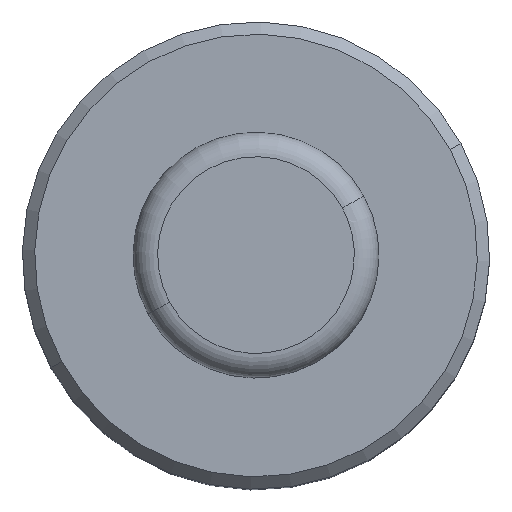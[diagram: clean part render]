
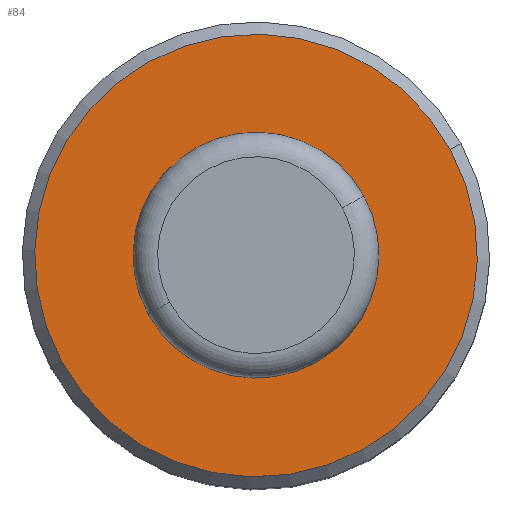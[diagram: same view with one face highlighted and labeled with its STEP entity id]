
A CAD part, top view. The second image highlights one B-rep face of the part: STEP entity #84.
In plain terms, the highlighted planar face has unit normal (0, 0, 1).
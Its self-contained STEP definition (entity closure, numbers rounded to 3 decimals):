
#61=CARTESIAN_POINT('Axis2P3D Location',(0.,0.,48.)) ;
#66=CARTESIAN_POINT('Axis2P3D Location',(0.,0.,48.)) ;
#70=CARTESIAN_POINT('Vertex',(15.796,8.63,48.)) ;
#72=CARTESIAN_POINT('Vertex',(-15.796,-8.63,48.)) ;
#75=CARTESIAN_POINT('Axis2P3D Location',(0.,0.,48.)) ;
#62=DIRECTION('Axis2P3D Direction',(0.,0.,1.)) ;
#63=DIRECTION('Axis2P3D XDirection',(1.,0.,0.)) ;
#67=DIRECTION('Axis2P3D Direction',(0.,0.,1.)) ;
#76=DIRECTION('Axis2P3D Direction',(0.,0.,1.)) ;
#64=AXIS2_PLACEMENT_3D('Plane Axis2P3D',#61,#62,#63) ;
#68=AXIS2_PLACEMENT_3D('Circle Axis2P3D',#66,#67,$) ;
#77=AXIS2_PLACEMENT_3D('Circle Axis2P3D',#75,#76,$) ;
#81=ORIENTED_EDGE('',*,*,#74,.T.) ;
#82=ORIENTED_EDGE('',*,*,#79,.T.) ;
#84=ADVANCED_FACE('',(#83),#65,.T.) ;
#69=CIRCLE('generated circle',#68,18.) ;
#78=CIRCLE('generated circle',#77,18.) ;
#74=EDGE_CURVE('',#71,#73,#69,.T.) ;
#79=EDGE_CURVE('',#73,#71,#78,.T.) ;
#80=EDGE_LOOP('',(#81,#82)) ;
#83=FACE_OUTER_BOUND('',#80,.T.) ;
#65=PLANE('Plane',#64) ;
#71=VERTEX_POINT('',#70) ;
#73=VERTEX_POINT('',#72) ;
